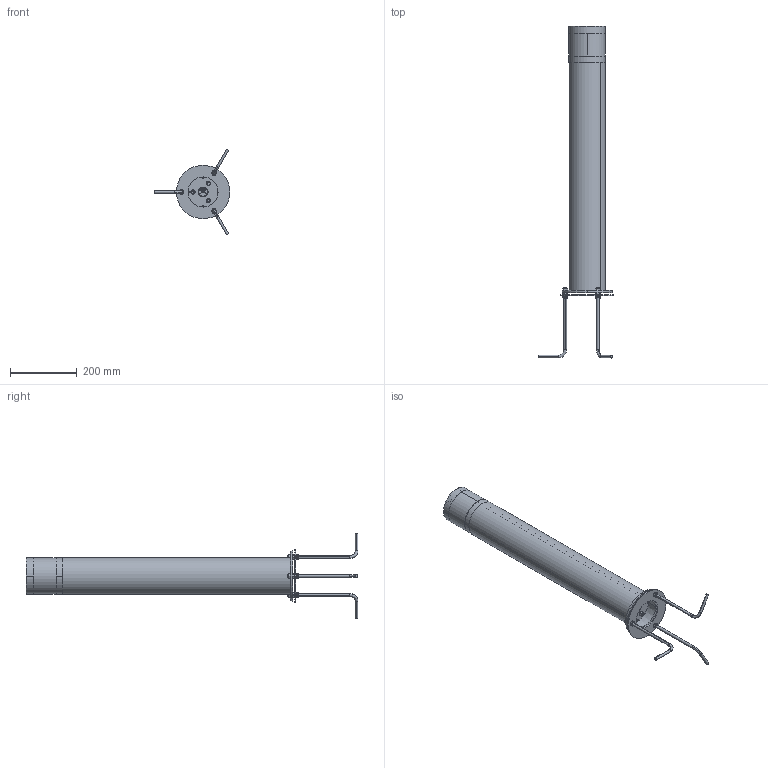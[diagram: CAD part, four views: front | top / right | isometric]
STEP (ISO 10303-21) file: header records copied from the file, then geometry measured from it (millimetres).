
FILE_DESCRIPTION((''),'2;1');
FILE_NAME('9EF-800_ASM','2024-09-20T',('C028'),(''),'CREO PARAMETRIC BY PTC INC, 2014190','CREO PARAMETRIC BY PTC INC, 2014190','');
FILE_SCHEMA(('CONFIG_CONTROL_DESIGN'));
Products named in the file (29): SHI_ZHI_GAI_555; TOU_MING_ZHAO_15; XIN_SHANG_GAI_75; LED_DENG_BAN_5; XIN_FANG_SHUI_QUAN_10; 9EF_TOU_GUANG_ZHAO_30; SHANG_GAI_ZU_ASM_44_ASM; 9AB-03DUDINGZUOHOUGAI_1_10; PAD_312_1_1; FANGUANGSAI-1_312_1_4; FANGSHUISAI_312_1_1; PG9_ASM_315_ASM_1_ASM_3_ASM; LI_BAN-24; M18; ZU_ZHUANG_TU_ASM_225_ASM; 9AD-07_300_1_35; LI_BAN; GUANZI_1; 12-ZHUANGJIEGGAI_3; 6-23; DICHA14A_ASM_1_ASM; 9AB_FA_LAN_PAN_56; M8-30; YUAN_GUAN-800_ASM; 9AB-11_4__ANY_; M8LUOMU_3__ANY_; 9AB-10_5__ANY_; 9ABDIZUO_AF5_ASM_333_ASM_1_ANY__ASM; 9EF-800_ASM
Assembly tree (40 placements, depth 4):
  9EF-800_ASM
    ZU_ZHUANG_TU_ASM_225_ASM
      SHI_ZHI_GAI_555
      TOU_MING_ZHAO_15
      SHANG_GAI_ZU_ASM_44_ASM
        XIN_SHANG_GAI_75
        LED_DENG_BAN_5
        XIN_FANG_SHUI_QUAN_10
        9EF_TOU_GUANG_ZHAO_30
      9AB-03DUDINGZUOHOUGAI_1_10
      PG9_ASM_315_ASM_1_ASM_3_ASM
        PAD_312_1_1
        FANGUANGSAI-1_312_1_4
        FANGSHUISAI_312_1_1
      LI_BAN-24
      M18
    YUAN_GUAN-800_ASM
      9AD-07_300_1_35
      LI_BAN
      DICHA14A_ASM_1_ASM
        GUANZI_1
        12-ZHUANGJIEGGAI_3
        6-23
      9AB_FA_LAN_PAN_56
      M8-30  x3
    9ABDIZUO_AF5_ASM_333_ASM_1_ANY__ASM
      9AB-11_4__ANY_  x3
      M8LUOMU_3__ANY_  x9
      9AB-10_5__ANY_
Bounding box: 226.5 x 995.35 x 257.75 mm (x, y, z)
Volume: 1665224.1 mm3; surface area: 1033603.3 mm2
Topology: 34 solids, 34 shells, 4115 faces, 12200 edges, 6941 vertices
Faces by surface type: sphere 1394, plane 1248, cylinder 752, cone 340, torus 213, bspline 168
Entity records: 144941 total; most frequent: CARTESIAN_POINT 51957, ORIENTED_EDGE 20696, DIRECTION 18048, EDGE_CURVE 10348, AXIS2_PLACEMENT_3D 7396, VERTEX_POINT 6617, EDGE_LOOP 4077, FACE_OUTER_BOUND 3859
